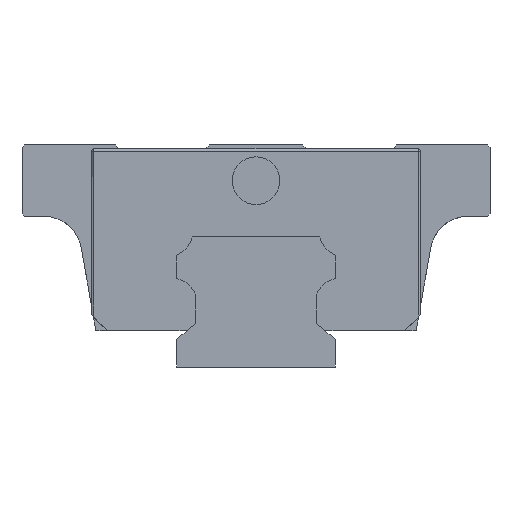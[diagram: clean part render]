
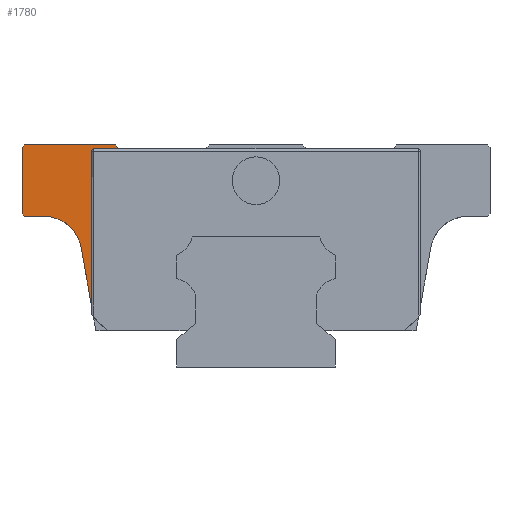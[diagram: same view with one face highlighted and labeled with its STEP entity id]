
A CAD part, left-side view. The second image highlights one B-rep face of the part: STEP entity #1780.
In plain terms, the highlighted planar face has unit normal (-1, 0, 0).
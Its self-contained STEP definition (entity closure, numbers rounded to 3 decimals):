
#12 = VERTEX_POINT ( 'NONE', #1709 ) ;
#15 = EDGE_CURVE ( 'NONE', #5344, #12, #2501, .T. ) ;
#55 = EDGE_CURVE ( 'NONE', #5344, #2106, #76, .T. ) ;
#76 = LINE ( 'NONE', #2410, #6159 ) ;
#221 = ORIENTED_EDGE ( 'NONE', *, *, #55, .F. ) ;
#243 = CARTESIAN_POINT ( 'NONE',  ( -23.35, 29.5, 19.295 ) ) ;
#245 = ORIENTED_EDGE ( 'NONE', *, *, #3240, .T. ) ;
#303 = CARTESIAN_POINT ( 'NONE',  ( -23.35, 29.205, 19. ) ) ;
#425 = LINE ( 'NONE', #1007, #3773 ) ;
#561 = ORIENTED_EDGE ( 'NONE', *, *, #7452, .T. ) ;
#565 = DIRECTION ( 'NONE',  ( 0., 0., -1. ) ) ;
#584 = CARTESIAN_POINT ( 'NONE',  ( -23.35, 29.205, 28. ) ) ;
#588 = VECTOR ( 'NONE', #7168, 1000. ) ;
#606 = DIRECTION ( 'NONE',  ( 0., 0., 1. ) ) ;
#716 = LINE ( 'NONE', #2480, #3544 ) ;
#774 = EDGE_CURVE ( 'NONE', #2953, #2050, #2391, .T. ) ;
#839 = VERTEX_POINT ( 'NONE', #5743 ) ;
#919 = EDGE_LOOP ( 'NONE', ( #5435, #7311, #2365, #3480, #3138, #245, #561, #6104, #4591, #221, #5746 ) ) ;
#1007 = CARTESIAN_POINT ( 'NONE',  ( -23.35, 17.228, 27.438 ) ) ;
#1114 = EDGE_CURVE ( 'NONE', #4720, #2953, #425, .T. ) ;
#1156 = VERTEX_POINT ( 'NONE', #2380 ) ;
#1199 = LINE ( 'NONE', #3530, #588 ) ;
#1207 = CARTESIAN_POINT ( 'NONE',  ( -23.35, 20.75, 7.78 ) ) ;
#1332 = CARTESIAN_POINT ( 'NONE',  ( -23.35, -8.741, 4.6 ) ) ;
#1524 = VECTOR ( 'NONE', #1689, 1000. ) ;
#1649 = CARTESIAN_POINT ( 'NONE',  ( -23.35, 26.714, 14.25 ) ) ;
#1689 = DIRECTION ( 'NONE',  ( 0., 1., 0. ) ) ;
#1709 = CARTESIAN_POINT ( 'NONE',  ( -23.35, 20.455, 27.5 ) ) ;
#1755 = CARTESIAN_POINT ( 'NONE',  ( -23.35, 20.455, 27.205 ) ) ;
#1780 = ADVANCED_FACE ( 'NONE', ( #6571 ), #6106, .T. ) ;
#2050 = VERTEX_POINT ( 'NONE', #584 ) ;
#2106 = VERTEX_POINT ( 'NONE', #1207 ) ;
#2365 = ORIENTED_EDGE ( 'NONE', *, *, #774, .T. ) ;
#2380 = CARTESIAN_POINT ( 'NONE',  ( -23.35, 22.036, 15.075 ) ) ;
#2385 = EDGE_CURVE ( 'NONE', #2050, #839, #1199, .T. ) ;
#2391 = LINE ( 'NONE', #2847, #1524 ) ;
#2410 = CARTESIAN_POINT ( 'NONE',  ( -23.35, 20.75, 26.875 ) ) ;
#2443 = DIRECTION ( 'NONE',  ( 0., -0.707, -0.707 ) ) ;
#2480 = CARTESIAN_POINT ( 'NONE',  ( -23.35, 3.032, -7.173 ) ) ;
#2501 = CIRCLE ( 'NONE', #6546, 0.295 ) ;
#2720 = CIRCLE ( 'NONE', #6987, 4.75 ) ;
#2847 = CARTESIAN_POINT ( 'NONE',  ( -23.35, 17.7, 28. ) ) ;
#2953 = VERTEX_POINT ( 'NONE', #3822 ) ;
#3138 = ORIENTED_EDGE ( 'NONE', *, *, #6128, .T. ) ;
#3240 = EDGE_CURVE ( 'NONE', #5893, #6081, #716, .T. ) ;
#3307 = DIRECTION ( 'NONE',  ( 0., 0., 1. ) ) ;
#3441 = DIRECTION ( 'NONE',  ( 0., -1., 0. ) ) ;
#3480 = ORIENTED_EDGE ( 'NONE', *, *, #2385, .T. ) ;
#3506 = CARTESIAN_POINT ( 'NONE',  ( -23.35, 17.28, 27.5 ) ) ;
#3530 = CARTESIAN_POINT ( 'NONE',  ( -23.35, 21.932, 35.273 ) ) ;
#3544 = VECTOR ( 'NONE', #2443, 1000. ) ;
#3636 = CARTESIAN_POINT ( 'NONE',  ( -23.35, 26.714, 19. ) ) ;
#3668 = DIRECTION ( 'NONE',  ( -1., 0., 0. ) ) ;
#3773 = VECTOR ( 'NONE', #3842, 1000. ) ;
#3822 = CARTESIAN_POINT ( 'NONE',  ( -23.35, 17.7, 28. ) ) ;
#3842 = DIRECTION ( 'NONE',  ( 0., 0.643, 0.766 ) ) ;
#4015 = CARTESIAN_POINT ( 'NONE',  ( -23.35, 22.728, 19. ) ) ;
#4076 = DIRECTION ( 'NONE',  ( 0., 1., 0. ) ) ;
#4172 = DIRECTION ( 'NONE',  ( 1., 0., 0. ) ) ;
#4290 = LINE ( 'NONE', #6583, #4313 ) ;
#4313 = VECTOR ( 'NONE', #6052, 1000. ) ;
#4370 = VERTEX_POINT ( 'NONE', #3636 ) ;
#4442 = CARTESIAN_POINT ( 'NONE',  ( -23.35, 29.5, 19. ) ) ;
#4513 = LINE ( 'NONE', #4442, #5005 ) ;
#4591 = ORIENTED_EDGE ( 'NONE', *, *, #5483, .T. ) ;
#4643 = LINE ( 'NONE', #5335, #6519 ) ;
#4720 = VERTEX_POINT ( 'NONE', #3506 ) ;
#4848 = EDGE_CURVE ( 'NONE', #4720, #12, #4643, .T. ) ;
#5005 = VECTOR ( 'NONE', #3441, 1000. ) ;
#5118 = EDGE_CURVE ( 'NONE', #4370, #1156, #2720, .T. ) ;
#5335 = CARTESIAN_POINT ( 'NONE',  ( -23.35, -20.542, 27.5 ) ) ;
#5344 = VERTEX_POINT ( 'NONE', #6702 ) ;
#5435 = ORIENTED_EDGE ( 'NONE', *, *, #4848, .F. ) ;
#5483 = EDGE_CURVE ( 'NONE', #1156, #2106, #7506, .T. ) ;
#5636 = VECTOR ( 'NONE', #5816, 1000. ) ;
#5743 = CARTESIAN_POINT ( 'NONE',  ( -23.35, 29.5, 27.705 ) ) ;
#5746 = ORIENTED_EDGE ( 'NONE', *, *, #15, .T. ) ;
#5816 = DIRECTION ( 'NONE',  ( 0., -0.174, -0.985 ) ) ;
#5893 = VERTEX_POINT ( 'NONE', #243 ) ;
#5999 = DIRECTION ( 'NONE',  ( 0., 0., 1. ) ) ;
#6052 = DIRECTION ( 'NONE',  ( 0., 0., -1. ) ) ;
#6081 = VERTEX_POINT ( 'NONE', #303 ) ;
#6104 = ORIENTED_EDGE ( 'NONE', *, *, #5118, .T. ) ;
#6106 = PLANE ( 'NONE',  #7509 ) ;
#6128 = EDGE_CURVE ( 'NONE', #839, #5893, #4290, .T. ) ;
#6159 = VECTOR ( 'NONE', #565, 1000. ) ;
#6519 = VECTOR ( 'NONE', #4076, 1000. ) ;
#6546 = AXIS2_PLACEMENT_3D ( 'NONE', #1755, #4172, #606 ) ;
#6571 = FACE_OUTER_BOUND ( 'NONE', #919, .T. ) ;
#6583 = CARTESIAN_POINT ( 'NONE',  ( -23.35, 29.5, 28. ) ) ;
#6702 = CARTESIAN_POINT ( 'NONE',  ( -23.35, 20.75, 27.205 ) ) ;
#6987 = AXIS2_PLACEMENT_3D ( 'NONE', #1649, #7365, #3307 ) ;
#7168 = DIRECTION ( 'NONE',  ( 0., 0.707, -0.707 ) ) ;
#7311 = ORIENTED_EDGE ( 'NONE', *, *, #1114, .T. ) ;
#7365 = DIRECTION ( 'NONE',  ( 1., 0., 0. ) ) ;
#7452 = EDGE_CURVE ( 'NONE', #6081, #4370, #4513, .T. ) ;
#7506 = LINE ( 'NONE', #4015, #5636 ) ;
#7509 = AXIS2_PLACEMENT_3D ( 'NONE', #1332, #3668, #5999 ) ;
